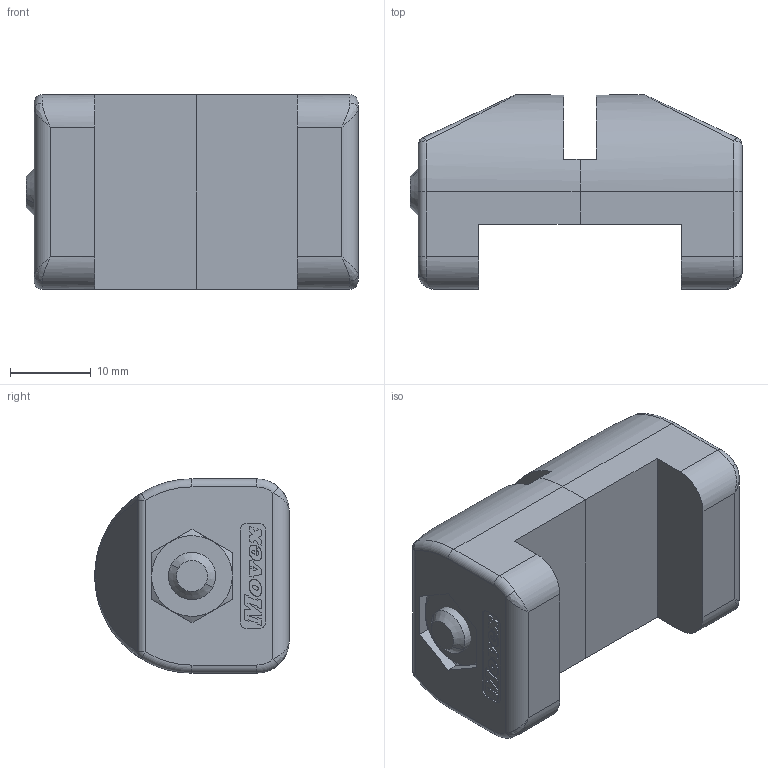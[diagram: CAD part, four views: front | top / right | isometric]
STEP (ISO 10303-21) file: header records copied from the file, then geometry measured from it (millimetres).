
FILE_DESCRIPTION(('CATIA V5 STEP Exchange'),'2;1');
FILE_NAME('X:\CODICI MOVEX\3D per clienti\3D definitivi\Part 400\P42101_01.stp','2016-09-07T14:57:50+00:00',('none'),('none'),'Version 5-6 Release 2012','CATIA V5 STEP AP203','none');
FILE_SCHEMA(('CONFIG_CONTROL_DESIGN'));
Length unit declared in the file: millimetre
Products named in the file (1): P42101_01
Assembly tree (4 placements, depth 2):
  P42101_01
    #58  x2
    #17047
    #17925
Bounding box: 41 x 24 x 24 mm (x, y, z)
Volume: 14086.8 mm3; surface area: 7027.1 mm2
Topology: 4 solids, 4 shells, 1059 faces, 3064 edges, 2014 vertices
Faces by surface type: plane 949, cylinder 68, bspline 18, torus 12, cone 8, sphere 4
Entity records: 18414 total; most frequent: CARTESIAN_POINT 4196, ORIENTED_EDGE 3152, DIRECTION 2540, EDGE_CURVE 1576, VECTOR 1427, LINE 1427, VERTEX_POINT 1042, AXIS2_PLACEMENT_3D 604
